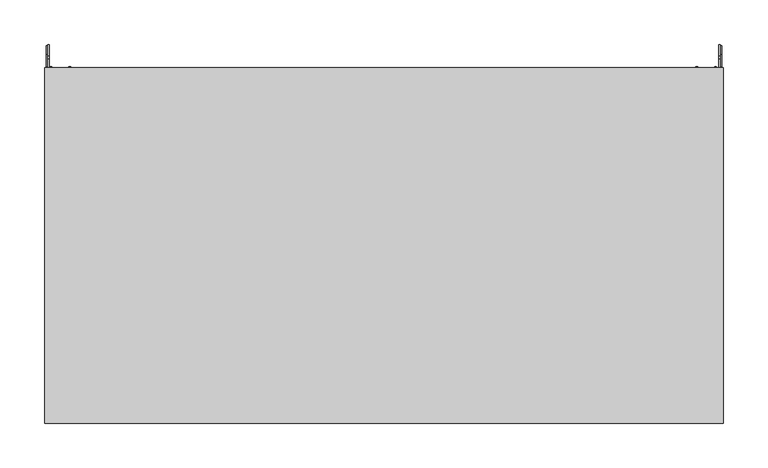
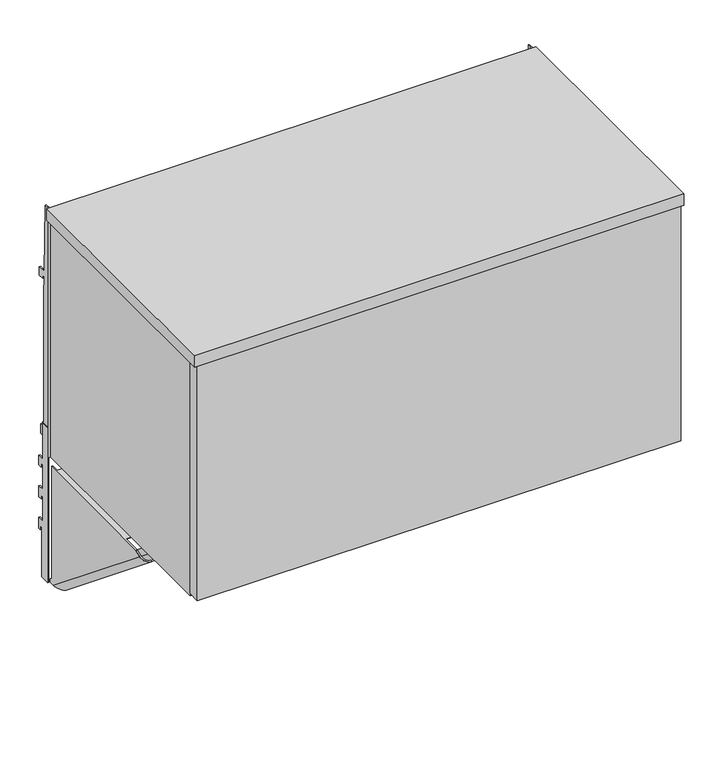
"""IFC4 building model written with IfcOpenShell, lengths in millimetres: furniture geometry, Steelcase - Universal Storage - In the Case Bin - Flat Front : For Montage - 30W."""

from ifc_helpers import new_model, si_unit, point, frame, frame_2d, origin, place, context, project, spatial, polyline, circle_curve, ellipse_curve, trimmed, segment, composite_curve, outline, extrude, faceted_brep, source, transform, mapped, element, save
from ifc_brep_helpers import plane_surface, cylinder_surface, revolved_surface, advanced_brep


def furniture_71a749e9(model_context):
    return source(origin(), model_context, "Body", "SolidModel", [
        extrude(outline(polyline([(14.7026351, 1295.4127), (14.7026351, 1236.5862384), (24.9864881, 1236.5862384), (24.9864881, 1220.7113353), (18.8396885, 1220.7113353), (18.8396885, 1227.061311), (14.7756879, 1227.061311), (14.7756879, 1186.6498969), (24.9864881, 1186.6498969), (24.9864881, 1168.3872762), (18.8396885, 1168.3872762), (18.8396885, 1174.7373246), (14.7756879, 1174.7373246), (14.7756879, 1134.3259105), (24.9864881, 1134.3259105), (24.9864881, 1116.0632897), (21.4050888, 1116.0632897), (21.4050888, 1122.4132655), (17.3410881, 1122.4132655), (17.3410881, 1040.9809), (1.1327479, 1040.9809), (1.1327479, 1295.4127), (14.7026351, 1295.4127)])), frame((2.1844, 0.0, 0.0), z_axis=(1.0, 0.0, 0.0), x_axis=(0.0, 1.0, 0.0)), (0.0, 0.0, 1.0), 1.905),
        extrude(outline(polyline([(14.7026351, 1295.4127), (14.7026351, 1236.5862384), (24.9864881, 1236.5862384), (24.9864881, 1220.7113353), (18.8396885, 1220.7113353), (18.8396885, 1227.061311), (14.7756879, 1227.061311), (14.7756879, 1186.6498969), (24.9864881, 1186.6498969), (24.9864881, 1168.3872762), (18.8396885, 1168.3872762), (18.8396885, 1174.7373246), (14.7756879, 1174.7373246), (14.7756879, 1134.3259105), (24.9864881, 1134.3259105), (24.9864881, 1116.0632897), (21.4050888, 1116.0632897), (21.4050888, 1122.4132655), (17.3410881, 1122.4132655), (17.3410881, 1040.9809), (1.1327479, 1040.9809), (1.1327479, 1295.4127), (14.7026351, 1295.4127)])), frame((757.9106, 0.0, 0.0), z_axis=(1.0, 0.0, 0.0), x_axis=(0.0, 1.0, 0.0)), (0.0, 0.0, 1.0), 1.905),
        advanced_brep(
        [(732.9424, -230.0833372, 1233.8431), (732.9424, 1.1327479, 1046.6079738), (730.8342, 1.1327479, 1046.6079738), (730.8342, -230.0833372, 1233.8431), (730.8342, 1.1327479, 1040.9809), (730.8342, -7.7654502, 1040.9809), (730.8342, -240.6555763, 1229.5716381), (754.1006, -7.7654502, 1040.9809), (754.1006, -240.6555763, 1229.5716381), (754.1006, 1.1327479, 1040.9809), (754.1006, 1.1327479, 1046.6079738), (754.1006, -3.080512, 1050.019805), (754.1006, -3.080512, 1233.8431), (754.1006, -230.0833372, 1233.8431), (751.9924009, 1.1327479, 1046.6079738), (751.9924009, -3.080512, 1050.019805), (751.9924009, -7.7654502, 1040.9809), (751.9924009, -240.6555763, 1229.5716381), (751.9924009, -230.0833372, 1233.8431), (751.9924009, -200.311512, 1233.8431), (751.9924009, -200.311512, 1233.0049163), (751.9924009, -14.0787123, 1233.0049163), (751.9924009, -14.0787123, 1233.8431), (751.9924009, -3.080512, 1233.8431), (751.9924009, 1.1327479, 1040.9809), (732.9424, -7.7654502, 1040.9809), (732.9424, -240.6555763, 1229.5716381), (732.9424, 1.1327479, 1040.9809), (723.0617978, -200.311512, 1233.8431), (723.0617978, -200.311512, 1252.2581016), (722.2236, -200.311512, 1252.2581016), (722.2236, -200.311512, 1233.0049163), (722.2236, -82.5825138, 1252.2581016), (723.0617978, -82.5825138, 1252.2581016), (723.0617978, -82.5825138, 1233.8431), (722.2236, -82.5825138, 1233.8431), (722.2236, -14.0787123, 1233.8431), (722.2236, -14.0787123, 1233.0049163)],
        [
            (0, 1),
            (1, 2),
            (2, 3),
            (3, 0),
            (2, 4),
            (4, 5),
            (5, 6),
            (6, 3),
            (5, 7, ellipse_curve(frame((742.4674, -7.7654502, 1040.9809), z_axis=(0.0, 0.0, 1.0), x_axis=(0.0, -1.0, 0.0)), 18.4853359, 11.6332)),
            (7, 8),
            (8, 6, ellipse_curve(frame((742.4674, -240.6555763, 1229.5716381), z_axis=(0.0, 0.374606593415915, -0.9271838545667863), x_axis=(0.0, -0.9271838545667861, -0.3746065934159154)), 13.3008659, 11.6332)),
            (7, 9),
            (9, 10),
            (10, 11),
            (11, 12),
            (12, 13),
            (13, 8),
            (10, 14),
            (14, 15),
            (15, 11),
            (16, 17),
            (17, 18),
            (18, 19),
            (19, 20),
            (20, 21),
            (21, 22),
            (22, 23),
            (23, 15),
            (14, 24),
            (24, 16),
            (16, 25, ellipse_curve(frame((742.4674005, -7.7654502, 1040.9809), z_axis=(0.0, 0.0, -1.0), x_axis=(0.0, 1.0, 0.0)), 15.135374, 9.5250005)),
            (25, 26),
            (26, 17, ellipse_curve(frame((742.4674005, -240.6555763, 1229.5716381), z_axis=(0.0, -0.374606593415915, 0.9271838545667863), x_axis=(0.0, 0.9271838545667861, 0.3746065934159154)), 10.8904475, 9.5250005)),
            (0, 26),
            (25, 27),
            (27, 1),
            (13, 18),
            (24, 9),
            (4, 27),
            (28, 29),
            (29, 30),
            (30, 31),
            (31, 20),
            (19, 28),
            (32, 33),
            (33, 34),
            (34, 35),
            (35, 32),
            (35, 36),
            (36, 37),
            (37, 31),
            (30, 32),
            (28, 34),
            (33, 29),
            (36, 22),
            (21, 37),
            (12, 23),
        ],
        [
            plane_surface(frame((732.9424, -241.2702093, 1242.902052), z_axis=(0.0, 0.6293204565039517, 0.7771459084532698), x_axis=(0.0, 0.7771459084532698, -0.6293204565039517))),
            plane_surface(frame((730.8342, -241.2702093, 1242.902052), z_axis=(-1.0000000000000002, 0.0, 0.0), x_axis=(0.0, 0.7771459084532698, -0.6293204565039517))),
            cylinder_surface(frame((742.4674, 5.728998, 1030.0533094), z_axis=(0.0, -0.7771459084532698, 0.6293204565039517), x_axis=(0.0, 0.6293204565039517, 0.7771459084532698)), 11.6332),
            plane_surface(frame((754.1006, -247.5463438, 1235.1516726), z_axis=(1.0000000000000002, 0.0, 0.0), x_axis=(0.0, 0.7771459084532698, -0.6293204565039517))),
            plane_surface(frame((754.1006, -241.2702093, 1242.902052), z_axis=(0.0, 0.6293204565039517, 0.7771459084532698), x_axis=(0.0, 0.7771459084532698, -0.6293204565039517))),
            plane_surface(frame((751.9924009, -241.2702093, 1242.902052), z_axis=(-1.0000000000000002, 0.0, 0.0), x_axis=(0.0, 0.7771459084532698, -0.6293204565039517))),
            revolved_surface(polyline([(742.4674005, 7.3699238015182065, 1040.980900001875), (742.4674005, -238.76446812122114, 1240.2966349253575)]), (742.4674005, 5.728998, 1030.0533094), (0.0, 0.7771459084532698, -0.6293204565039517)),
            plane_surface(frame((732.9424, -247.5463438, 1235.1516726), z_axis=(1.0000000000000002, 0.0, 0.0), x_axis=(0.0, 0.7771459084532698, -0.6293204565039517))),
            plane_surface(frame((762.0, -257.2236519, 1222.8777011), z_axis=(0.0, -0.374606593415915, 0.9271838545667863), x_axis=(-1.0, 0.0, 0.0))),
            plane_surface(frame((762.0, 1.1327479, 1040.9809), z_axis=(0.0, 0.0, -1.0), x_axis=(-1.0, 0.0, 0.0))),
            plane_surface(frame((762.0, 1.1327479, 1053.6809), z_axis=(0.0, 1.0, 0.0), x_axis=(-1.0, 0.0, 0.0))),
            plane_surface(frame((722.2236, -200.311512, 1252.2581016), z_axis=(0.0, -1.0, 0.0), x_axis=(0.0, 0.0, -1.0))),
            plane_surface(frame((722.2236, -82.5825138, 1252.2581016), z_axis=(0.0, 1.0, 0.0), x_axis=(0.0, 0.0, 1.0))),
            plane_surface(frame((722.2236, -200.311512, 1252.2581016), z_axis=(-1.0, 0.0, 0.0), x_axis=(0.0, 1.0, 0.0))),
            plane_surface(frame((723.0617978, -200.311512, 1233.8431), z_axis=(1.0, 0.0, 0.0), x_axis=(0.0, 1.0, 0.0))),
            plane_surface(frame((723.0617978, -200.311512, 1252.2581016), z_axis=(0.0, 0.0, 1.0), x_axis=(0.0, 1.0, 0.0))),
            plane_surface(frame((722.2236, -14.0787123, 1233.8431), z_axis=(0.0, 1.0, 0.0), x_axis=(0.0, 0.0, 1.0))),
            plane_surface(frame((722.2236, -200.311512, 1233.0049163), z_axis=(0.0, 0.0, -1.0), x_axis=(0.0, 1.0, 0.0))),
            plane_surface(frame((754.1006, -200.311512, 1233.8431), z_axis=(0.0, 0.0, 1.0), x_axis=(0.0, 1.0, 0.0))),
            plane_surface(frame((754.1006, -3.080512, 1050.019805), z_axis=(0.0, 1.0, 0.0), x_axis=(-1.0, 0.0, 0.0))),
        ],
        [
            (0, [[1, 2, 3, 4]]),
            (1, [[-3, 5, 6, 7, 8]]),
            (2, [[-7, 9, 10, 11]]),
            (3, [[-10, 12, 13, 14, 15, 16, 17]]),
            (4, [[18, 19, 20, -14]]),
            (5, [[21, 22, 23, 24, 25, 26, 27, 28, -19, 29, 30]]),
            (6, [[-21, 31, 32, 33]]),
            (7, [[-1, 34, -32, 35, 36]]),
            (8, [[-4, -8, -11, -17, 37, -22, -33, -34]]),
            (9, [[38, -12, -9, -6, 39, -35, -31, -30]]),
            (10, [[-38, -29, -18, -13]]),
            (10, [[-39, -5, -2, -36]]),
            (11, [[40, 41, 42, 43, -24, 44]]),
            (12, [[45, 46, 47, 48]]),
            (13, [[-48, 49, 50, 51, -42, 52]]),
            (14, [[-40, 53, -46, 54]]),
            (15, [[-41, -54, -45, -52]]),
            (16, [[-50, 55, -26, 56]]),
            (17, [[-51, -56, -25, -43]]),
            (18, [[57, -27, -55, -49, -47, -53, -44, -23, -37, -16]]),
            (19, [[-15, -20, -28, -57]]),
        ],
    ),
        advanced_brep(
        [(8.1026, -3.080512, 1050.019805), (8.1026, -3.080512, 1233.8431), (8.1026, -14.0787123, 1233.8431), (8.1026, -14.0787123, 1233.0049163), (8.1026, -200.311512, 1233.0049163), (8.1026, -200.311512, 1233.8431), (8.1026, -230.0833372, 1233.8431), (8.1026, -240.6555763, 1229.5716381), (8.1026, -7.7654502, 1040.9809), (8.1026, 1.1327479, 1040.9809), (8.1026, 1.1327479, 1046.6079738), (5.9944, -3.080512, 1233.8431), (5.9944, -3.080512, 1050.019805), (5.9944, 1.1327479, 1046.6079738), (5.9944, 1.1327479, 1040.9809), (5.9944, -7.7654502, 1040.9809), (5.9944, -240.6555763, 1229.5716381), (5.9944, -230.0833372, 1233.8431), (39.5732022, -200.311512, 1233.8431), (39.5732022, -82.5825138, 1233.8431), (40.4114, -82.5825138, 1233.8431), (40.4114, -14.0787123, 1233.8431), (29.2608, -7.7654502, 1040.9809), (29.2608, -240.6555763, 1229.5716381), (29.2608, 1.1327479, 1040.9809), (29.2608, 1.1327479, 1046.6079738), (29.2608, -230.0833372, 1233.8431), (27.1526009, 1.1327479, 1046.6079738), (27.1526009, -230.0833372, 1233.8431), (27.1526009, 1.1327479, 1040.9809), (27.1526009, -7.7654502, 1040.9809), (27.1526009, -240.6555763, 1229.5716381), (40.4114, -200.311512, 1233.0049163), (40.4114, -200.311512, 1252.2581016), (39.5732022, -200.311512, 1252.2581016), (40.4114, -14.0787123, 1233.0049163), (40.4114, -82.5825138, 1252.2581016), (39.5732022, -82.5825138, 1252.2581016)],
        [
            (0, 1),
            (1, 2),
            (2, 3),
            (3, 4),
            (4, 5),
            (5, 6),
            (6, 7),
            (7, 8),
            (8, 9),
            (9, 10),
            (10, 0),
            (11, 12),
            (12, 13),
            (13, 14),
            (14, 15),
            (15, 16),
            (16, 17),
            (17, 11),
            (17, 6),
            (5, 18),
            (18, 19),
            (19, 20),
            (20, 21),
            (21, 2),
            (1, 11),
            (0, 12),
            (10, 13),
            (15, 22, ellipse_curve(frame((17.6276, -7.7654502, 1040.9809), z_axis=(0.0, 0.0, 1.0), x_axis=(0.0, -1.0, 0.0)), 18.4853359, 11.6332)),
            (22, 23),
            (23, 16, ellipse_curve(frame((17.6276, -240.6555763, 1229.5716381), z_axis=(0.0, 0.374606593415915, -0.9271838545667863), x_axis=(0.0, -0.9271838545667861, -0.3746065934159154)), 13.3008659, 11.6332)),
            (22, 24),
            (24, 25),
            (25, 26),
            (26, 23),
            (25, 27),
            (27, 28),
            (28, 26),
            (27, 29),
            (29, 30),
            (30, 31),
            (31, 28),
            (7, 31, ellipse_curve(frame((17.6276005, -240.6555763, 1229.5716381), z_axis=(0.0, -0.374606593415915, 0.9271838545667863), x_axis=(0.0, 0.9271838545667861, 0.3746065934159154)), 10.8904475, 9.5250005)),
            (30, 8, ellipse_curve(frame((17.6276005, -7.7654502, 1040.9809), z_axis=(0.0, 0.0, -1.0), x_axis=(0.0, 1.0, 0.0)), 15.135374, 9.5250005)),
            (14, 9),
            (29, 24),
            (4, 32),
            (32, 33),
            (33, 34),
            (34, 18),
            (21, 35),
            (35, 3),
            (35, 32),
            (20, 36),
            (36, 33),
            (19, 37),
            (37, 36),
            (37, 34),
        ],
        [
            plane_surface(frame((8.1026, -230.0833372, 1233.8431), z_axis=(1.0, 0.0, 0.0), x_axis=(0.0, -1.0, 0.0))),
            plane_surface(frame((5.9944, -230.0833372, 1233.8431), z_axis=(-1.0, 0.0, 0.0), x_axis=(0.0, 1.0, 0.0))),
            plane_surface(frame((8.1026, -3.080512, 1233.8431), z_axis=(0.0, 0.0, 1.0), x_axis=(-1.0, 0.0, 0.0))),
            plane_surface(frame((8.1026, -3.080512, 1050.019805), z_axis=(0.0, 1.0, 0.0), x_axis=(-1.0, 0.0, 0.0))),
            plane_surface(frame((8.1026, -241.2702093, 1242.902052), z_axis=(0.0, 0.6293204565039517, 0.7771459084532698), x_axis=(0.0, 0.7771459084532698, -0.6293204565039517))),
            cylinder_surface(frame((17.6276, 5.728998, 1030.0533094), z_axis=(0.0, -0.7771459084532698, 0.6293204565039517), x_axis=(1.0, 0.0, 0.0)), 11.6332),
            plane_surface(frame((29.2608, -247.5463438, 1235.1516726), z_axis=(1.0000000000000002, 0.0, 0.0), x_axis=(0.0, 0.7771459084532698, -0.6293204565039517))),
            plane_surface(frame((29.2608, -241.2702093, 1242.902052), z_axis=(0.0, 0.6293204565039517, 0.7771459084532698), x_axis=(0.0, 0.7771459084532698, -0.6293204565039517))),
            plane_surface(frame((27.1526009, -241.2702093, 1242.902052), z_axis=(-1.0000000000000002, 0.0, 0.0), x_axis=(0.0, 0.7771459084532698, -0.6293204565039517))),
            revolved_surface(polyline([(27.152601, 1.375646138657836, 1033.5785848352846), (27.152601, -244.75874578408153, 1232.8943197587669)]), (17.6276005, 5.728998, 1030.0533094), (0.0, 0.7771459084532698, -0.6293204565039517)),
            plane_surface(frame((762.0, -257.2236519, 1222.8777011), z_axis=(0.0, -0.374606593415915, 0.9271838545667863), x_axis=(-1.0, 0.0, 0.0))),
            plane_surface(frame((762.0, 1.1327479, 1040.9809), z_axis=(0.0, 0.0, -1.0), x_axis=(-1.0, 0.0, 0.0))),
            plane_surface(frame((762.0, 1.1327479, 1053.6809), z_axis=(0.0, 1.0, 0.0), x_axis=(-1.0, 0.0, 0.0))),
            plane_surface(frame((10.5986151, -200.311512, 1233.8431), z_axis=(0.0, -1.0, 0.0), x_axis=(-1.0, 0.0, 0.0))),
            plane_surface(frame((10.5986151, -14.0787123, 1233.8431), z_axis=(0.0, 1.0, 0.0), x_axis=(1.0, 0.0, 0.0))),
            plane_surface(frame((8.1026, -200.311512, 1233.0049163), z_axis=(0.0, 0.0, -1.0), x_axis=(0.0, 1.0, 0.0))),
            plane_surface(frame((40.4114, -200.311512, 1233.0049163), z_axis=(1.0, 0.0, 0.0), x_axis=(0.0, 1.0, 0.0))),
            plane_surface(frame((38.1509305, -82.5825138, 1252.2581016), z_axis=(0.0, 1.0, 0.0), x_axis=(1.0, 0.0, 0.0))),
            plane_surface(frame((40.4114, -200.311512, 1252.2581016), z_axis=(0.0, 0.0, 1.0), x_axis=(0.0, 1.0, 0.0))),
            plane_surface(frame((39.5732022, -200.311512, 1252.2581016), z_axis=(-1.0, 0.0, 0.0), x_axis=(0.0, 1.0, 0.0))),
        ],
        [
            (0, [[1, 2, 3, 4, 5, 6, 7, 8, 9, 10, 11]]),
            (1, [[12, 13, 14, 15, 16, 17, 18]]),
            (2, [[-18, 19, -6, 20, 21, 22, 23, 24, -2, 25]]),
            (3, [[-1, 26, -12, -25]]),
            (4, [[-26, -11, 27, -13]]),
            (5, [[-16, 28, 29, 30]]),
            (6, [[-29, 31, 32, 33, 34]]),
            (7, [[-33, 35, 36, 37]]),
            (8, [[-36, 38, 39, 40, 41]]),
            (9, [[-8, 42, -40, 43]]),
            (10, [[-7, -19, -17, -30, -34, -37, -41, -42]]),
            (11, [[44, -9, -43, -39, 45, -31, -28, -15]]),
            (12, [[-44, -14, -27, -10]]),
            (12, [[-45, -38, -35, -32]]),
            (13, [[46, 47, 48, 49, -20, -5]]),
            (14, [[50, 51, -3, -24]]),
            (15, [[-46, -4, -51, 52]]),
            (16, [[-47, -52, -50, -23, 53, 54]]),
            (17, [[-53, -22, 55, 56]]),
            (18, [[-48, -54, -56, 57]]),
            (19, [[-49, -57, -55, -21]]),
        ],
    ),
        faceted_brep([(743.0516023, -9.7789998, 1640.3955), (743.0516023, -9.7789998, 1652.2572326), (743.0516023, -10.6172003, 1652.2572326), (743.0516023, -10.6172003, 1639.557281), (743.0516023, -0.8382, 1639.557281), (743.0516023, -0.8382266, 1640.3955), (17.0434001, -9.7789998, 1640.3955), (17.0434001, -0.8382, 1640.3955), (17.0434001, -0.8382011, 1639.557281), (17.0434001, -10.6172003, 1639.557281), (17.0434001, -10.6172003, 1652.2572326), (17.0434001, -9.7789998, 1652.2572326), (745.6837557, -30.9238769, 1640.3955), (746.5187599, -30.850824, 1640.3955), (743.8930117, -0.8382, 1640.3955), (757.9106, -0.8382, 1640.3955), (757.9106, 0.1784978, 1640.3955), (2.1844, 0.1784978, 1640.3955), (2.1844, -0.8382, 1640.3955), (16.2019988, -0.8382, 1640.3955), (13.5762335, -30.850824, 1640.3955), (14.4176356, -30.850824, 1640.3955), (757.9106, 0.1784978, 1247.9655), (757.9106, -0.8382, 1247.9655), (743.8930117, -0.8382, 1247.9655), (746.5187599, -30.850824, 1247.9655), (745.6837557, -30.9238769, 1247.9655), (743.0516, -0.8382, 1247.9655), (17.0434002, -0.8382, 1247.9655), (14.4176356, -30.850824, 1247.9655), (13.5762335, -30.850824, 1247.9655), (16.2019988, -0.8382, 1247.9655), (2.1844, -0.8382, 1247.9655), (2.1844, 0.1784978, 1247.9655)], [[[0, 1, 2, 3, 4, 5]], [[6, 7, 8, 9, 10, 11]], [[1, 0, 6, 11]], [[2, 1, 11, 10]], [[3, 2, 10, 9]], [[4, 3, 9, 8]], [[0, 5, 12, 13, 14, 15, 16, 17, 18, 19, 20, 21, 7, 6]], [[22, 23, 24, 25, 26, 27, 28, 29, 30, 31, 32, 33]], [[17, 16, 22, 33]], [[18, 17, 33, 32]], [[19, 18, 32, 31]], [[20, 19, 31, 30]], [[21, 20, 30, 29]], [[7, 21, 29, 28, 8]], [[28, 27, 4, 8]], [[12, 5, 4, 27, 26]], [[13, 12, 26, 25]], [[14, 13, 25, 24]], [[15, 14, 24, 23]], [[16, 15, 23, 22]]]),
        faceted_brep([(726.5415999, -61.4680004, 1256.4236903), (726.5415999, -61.4680004, 1248.8037), (726.5415999, -60.6298021, 1248.8037), (726.5415999, -60.6298021, 1256.4236903), (33.5534002, -61.4680004, 1256.4236903), (33.5534002, -60.6298021, 1256.4236903), (33.5534002, -60.6298021, 1248.8037), (33.5534002, -61.468, 1248.8037), (17.0434001, -61.4680004, 1248.8037), (17.0434001, -61.4680004, 1247.9655), (743.0516023, -61.4680004, 1247.9655), (743.0516023, -61.4680004, 1248.8037), (743.0516023, -0.8382, 1247.9655), (743.0516023, -0.8382, 1248.8037), (17.0434001, -0.8382, 1248.8037), (17.0434001, -0.8382, 1247.9655)], [[[0, 1, 2, 3]], [[4, 5, 6, 7]], [[1, 0, 4, 7, 8, 9, 10, 11]], [[3, 2, 6, 5]], [[0, 3, 5, 4]], [[11, 10, 12, 13]], [[8, 14, 15, 9]], [[12, 10, 9, 15]], [[13, 12, 15, 14]], [[11, 13, 14, 8, 7, 6, 2, 1]]]),
        extrude(outline(composite_curve([segment(polyline([(-343.4401318, 1291.8437595), (-377.213238, 1291.8437595), (-377.213238, 1639.09375), (-30.850824, 1639.09375), (-30.850824, 1638.0577444), (-372.9486617, 1638.0577444)]), True, "CONTINUOUS"), segment(trimmed(circle_curve(frame_2d((-372.9486617, 1635.1839261)), 2.8738183), [point((-372.9486617, 1638.0577444))], [point((-375.82248, 1635.1839261))], True, "CARTESIAN"), True, "CONTINUOUS"), segment(polyline([(-375.82248, 1635.1839261), (-375.82248, 1292.9867129), (-343.4401318, 1292.9867129), (-343.4401318, 1291.8437595)]), True, "CONTINUOUS")], self_intersect=False)), frame((372.7266311, 0.0, 0.0), z_axis=(1.0, 0.0, 0.0), x_axis=(0.0, 1.0, 0.0)), (0.0, 0.0, 1.0), 16.5467378),
        extrude(outline(polyline([(762.0, -399.4977324), (0.0, -399.4977324), (0.0, 0.0), (762.0, 0.0), (762.0, -399.4977324)])), frame((0.0, 0.0, 1639.490625), z_axis=(0.0, 0.0, 1.0), x_axis=(1.0, 0.0, 0.0)), (0.0, 0.0, 1.0), 19.05),
        extrude(outline(polyline([(4.4448587, -378.8585852), (757.5703, -378.8585852), (757.5703, -399.0261526), (4.4448587, -399.0261526), (4.4448587, -378.8585852)])), frame((0.0, 0.0, 1253.2134107), z_axis=(0.0, 0.0, 1.0), x_axis=(1.0, 0.0, 0.0)), (0.0, 0.0, 1.0), 386.3690475),
        extrude(outline(polyline([(0.0, 1657.096), (10.1677703, 1657.096), (13.3857995, 1545.8185744), (26.0095997, 1545.8185744), (26.0095997, 1532.1025512), (17.5768, 1532.1025512), (17.5768, 1537.1064608), (13.3349998, 1537.1064608), (13.3349998, 1522.6538546), (14.2747998, 1522.6538546), (14.2747998, 1296.0858527), (17.2466001, 1296.0858527), (17.2466001, 1289.7358043), (22.5806007, 1289.7358043), (22.5806007, 1274.2164027), (0.0, 1274.2164027), (0.0, 1657.096)])), frame((756.4882, 0.0, 0.0), z_axis=(1.0, 0.0, 0.0), x_axis=(0.0, 1.0, 0.0)), (0.0, 0.0, 1.0), 1.905),
        extrude(outline(polyline([(15.875, -377.213238), (5.5118, -377.213238), (5.5118, 0.0), (15.875, 0.0), (15.875, -377.213238)])), frame((0.0, 0.0, 1247.9655), z_axis=(0.0, 0.0, 1.0), x_axis=(1.0, 0.0, 0.0)), (0.0, 0.0, 1.0), 391.2710707),
        extrude(outline(polyline([(760.8568665, -377.213238), (746.125, -377.213238), (746.125, 0.0), (760.8568665, 0.0), (760.8568665, -377.213238)])), frame((0.0, 0.0, 1247.9655), z_axis=(0.0, 0.0, 1.0), x_axis=(1.0, 0.0, 0.0)), (0.0, 0.0, 1.0), 391.2710707),
        extrude(outline(polyline([(0.0, 1657.096), (10.1677703, 1657.096), (13.3857995, 1545.8185744), (26.0095997, 1545.8185744), (26.0095997, 1532.1025512), (17.5768, 1532.1025512), (17.5768, 1537.1064608), (13.3349998, 1537.1064608), (13.3349998, 1522.6538546), (14.2747998, 1522.6538546), (14.2747998, 1296.0858527), (17.2466001, 1296.0858527), (17.2466001, 1289.7358043), (22.5806007, 1289.7358043), (22.5806007, 1274.2164027), (0.0, 1274.2164027), (0.0, 1657.096)])), frame((3.6068, 0.0, 0.0), z_axis=(1.0, 0.0, 0.0), x_axis=(0.0, 1.0, 0.0)), (0.0, 0.0, 1.0), 1.905),
        extrude(outline(polyline([(-35.4584098, 1372.819257), (-27.0763996, 1372.819257), (-27.0763996, 1360.1191601), (-33.4264117, 1360.1191601), (-33.4264117, 1323.1622589), (-27.0763996, 1323.1622589), (-27.0763996, 1265.428), (-35.4584098, 1265.428), (-35.4584098, 1293.054213), (-46.1263996, 1293.054213), (-46.1263996, 1268.1875622), (-59.9694137, 1268.1875622), (-59.9694137, 1294.8575912), (-332.8542818, 1294.8575912), (-332.8542818, 1268.1875622), (-377.3042823, 1268.1875622), (-377.3042823, 1310.7072052), (-35.4584098, 1310.7072052), (-35.4584098, 1372.819257)])), frame((15.875, 0.0, 0.0), z_axis=(1.0, 0.0, 0.0), x_axis=(0.0, 1.0, 0.0)), (0.0, 0.0, 1.0), 730.25),
    ])


if __name__ == "__main__":
    model = new_model("IFC4")
    model_context = context("Model", 3, world=origin())
    ifc_project = project(units=[si_unit("LENGTHUNIT", "METRE", prefix="MILLI")], contexts=[model_context])
    site = spatial("IfcSite", under=ifc_project)
    building = spatial("IfcBuilding", under=site)
    placement = place(None, origin())
    furniture_shape = furniture_71a749e9(model_context)
    element("IfcFurniture", 1, ObjectType="Steelcase - Universal Storage - In the Case Bin - Flat Front : For Montage - 30W", at=placement, inside=building, context=model_context, shape_type="MappedRepresentation", body=[
        mapped(furniture_shape, transform((0.0, 0.0, 0.0), x_axis=(1.0, 0.0, 0.0), y_axis=(0.0, 1.0, 0.0), z_axis=(0.0, 0.0, 1.0))),
    ])
    save(model, "model.ifc")
